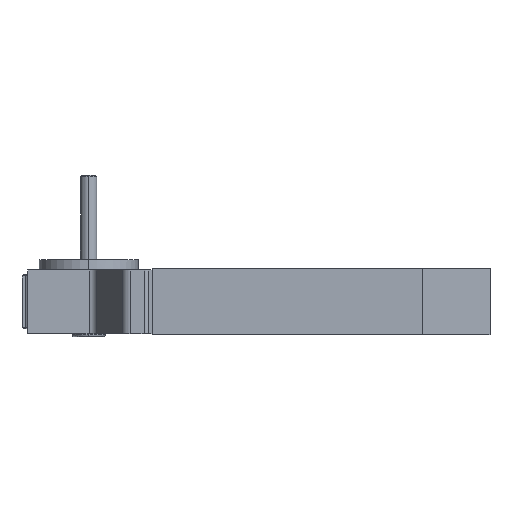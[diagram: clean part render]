
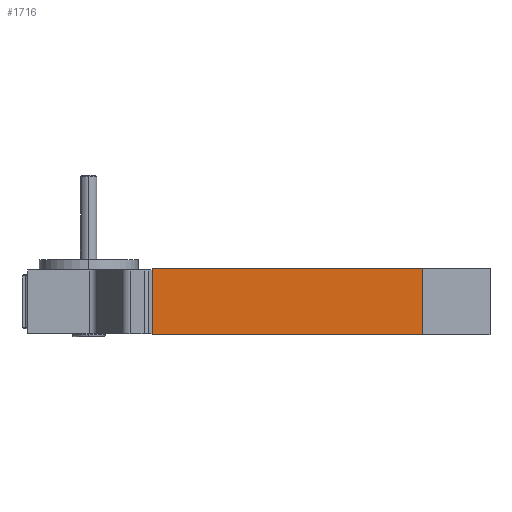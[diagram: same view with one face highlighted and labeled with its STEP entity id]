
A CAD part, left-side view. The second image highlights one B-rep face of the part: STEP entity #1716.
In plain terms, the highlighted planar face has unit normal (-1, 0, 0).
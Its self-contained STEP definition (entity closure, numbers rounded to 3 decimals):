
#311 = LINE ( 'NONE', #4025, #5389 ) ;
#427 = VERTEX_POINT ( 'NONE', #17606 ) ;
#1037 = VECTOR ( 'NONE', #15409, 1000. ) ;
#1144 = EDGE_CURVE ( 'NONE', #12376, #427, #311, .T. ) ;
#1406 = CARTESIAN_POINT ( 'NONE',  ( -53.13, -76.7, -40. ) ) ;
#1716 = ADVANCED_FACE ( 'NONE', ( #10883 ), #13181, .T. ) ;
#2135 = LINE ( 'NONE', #8454, #4546 ) ;
#2548 = DIRECTION ( 'NONE',  ( 0., -1., 0. ) ) ;
#2658 = ORIENTED_EDGE ( 'NONE', *, *, #18088, .T. ) ;
#2846 = ORIENTED_EDGE ( 'NONE', *, *, #5035, .T. ) ;
#3079 = ORIENTED_EDGE ( 'NONE', *, *, #5053, .F. ) ;
#3084 = LINE ( 'NONE', #11855, #17654 ) ;
#3887 = DIRECTION ( 'NONE',  ( -1., 0., 0. ) ) ;
#4025 = CARTESIAN_POINT ( 'NONE',  ( -53.13, -76.7, -40. ) ) ;
#4183 = AXIS2_PLACEMENT_3D ( 'NONE', #16640, #3887, #2548 ) ;
#4447 = VERTEX_POINT ( 'NONE', #9418 ) ;
#4546 = VECTOR ( 'NONE', #11279, 1000. ) ;
#4784 = LINE ( 'NONE', #7149, #1037 ) ;
#5035 = EDGE_CURVE ( 'NONE', #12376, #17700, #4784, .T. ) ;
#5053 = EDGE_CURVE ( 'NONE', #427, #4447, #2135, .T. ) ;
#5339 = DIRECTION ( 'NONE',  ( 0., 0., 1. ) ) ;
#5389 = VECTOR ( 'NONE', #5339, 1000. ) ;
#6883 = CARTESIAN_POINT ( 'NONE',  ( -53.13, -404.725, -40. ) ) ;
#7149 = CARTESIAN_POINT ( 'NONE',  ( -53.13, 0., -40. ) ) ;
#8454 = CARTESIAN_POINT ( 'NONE',  ( -53.13, 0., 40. ) ) ;
#9418 = CARTESIAN_POINT ( 'NONE',  ( -53.13, -404.725, 40. ) ) ;
#9727 = ORIENTED_EDGE ( 'NONE', *, *, #1144, .F. ) ;
#10883 = FACE_OUTER_BOUND ( 'NONE', #17845, .T. ) ;
#11279 = DIRECTION ( 'NONE',  ( 0., -1., 0. ) ) ;
#11855 = CARTESIAN_POINT ( 'NONE',  ( -53.13, -404.725, -40. ) ) ;
#12376 = VERTEX_POINT ( 'NONE', #1406 ) ;
#13181 = PLANE ( 'NONE',  #4183 ) ;
#14530 = DIRECTION ( 'NONE',  ( 0., 0., 1. ) ) ;
#15409 = DIRECTION ( 'NONE',  ( 0., -1., 0. ) ) ;
#16640 = CARTESIAN_POINT ( 'NONE',  ( -53.13, 0., -40. ) ) ;
#17606 = CARTESIAN_POINT ( 'NONE',  ( -53.13, -76.7, 40. ) ) ;
#17654 = VECTOR ( 'NONE', #14530, 1000. ) ;
#17700 = VERTEX_POINT ( 'NONE', #6883 ) ;
#17845 = EDGE_LOOP ( 'NONE', ( #3079, #9727, #2846, #2658 ) ) ;
#18088 = EDGE_CURVE ( 'NONE', #17700, #4447, #3084, .T. ) ;
